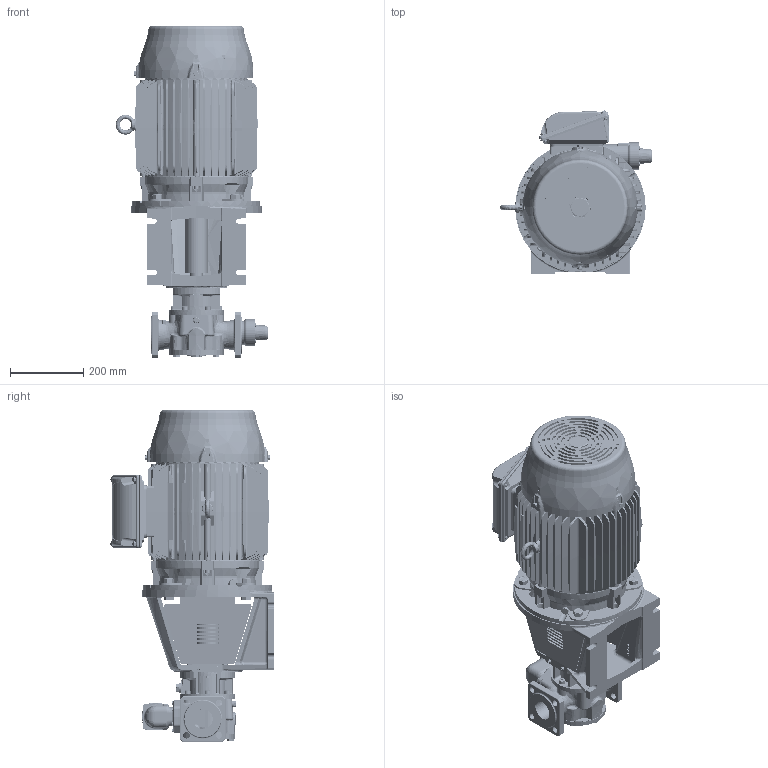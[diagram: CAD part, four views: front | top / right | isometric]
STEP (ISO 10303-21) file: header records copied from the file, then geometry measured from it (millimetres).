
FILE_DESCRIPTION(/* description */ (''),/* implementation_level */ '2;1');
FILE_NAME(/* name */ 'C:\V\JPP\Designs\GEAR PUMPS\PRODUCT ENGINEERING\EUROPE\TG BLOC\TG BLOC_15-50_G2_O_RV1-_160M-STEP.stp',/* time_stamp */ '2021-03-17T09:17:54+01:00',/* author */ ('A77THR'),/* organization */ (''),/* preprocessor_version */ 'ST-DEVELOPER v18.1',/* originating_system */ 'Autodesk Inventor 2020',/* authorisation */ '');
FILE_SCHEMA (('AUTOMOTIVE_DESIGN { 1 0 10303 214 3 1 1 }'));
Length unit declared in the file: millimetre
Products named in the file (1): TG BLOC_15-50_G2_O_RV1-_160M
Bounding box: 415.99 x 444.6 x 905 mm (x, y, z)
Volume: 44068702.8 mm3; surface area: 2326359.7 mm2
Topology: 1 solids, 1 shells, 4963 faces, 12919 edges, 8126 vertices
Faces by surface type: plane 1962, cylinder 1128, bspline 1064, cone 574, torus 189, sphere 46
Full cylindrical faces by diameter (mm): 4 x1, 4.5 x8, 4.917 x8, 5 x3, 5.459 x16, 6 x16, 6.647 x1, 7 x20, 7.5 x3, 8 x13, 8.376 x5, 8.5 x2, 8.7 x16, 9.188 x4, 9.4 x1, 10 x12, 10.5 x1, 11.445 x2, 11.5 x4, 11.6 x7, 12 x4, 12.5 x3, 13 x4, 14 x1, 15.011 x3, 15.4 x10, 16 x6, 17.9 x3, 18 x11, 19 x3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
Entity records: 209085 total; most frequent: CARTESIAN_POINT 90682, ORIENTED_EDGE 25626, DIRECTION 21746, EDGE_CURVE 12813, AXIS2_PLACEMENT_3D 8454, VERTEX_POINT 8126, EDGE_LOOP 5389, FACE_OUTER_BOUND 4963
